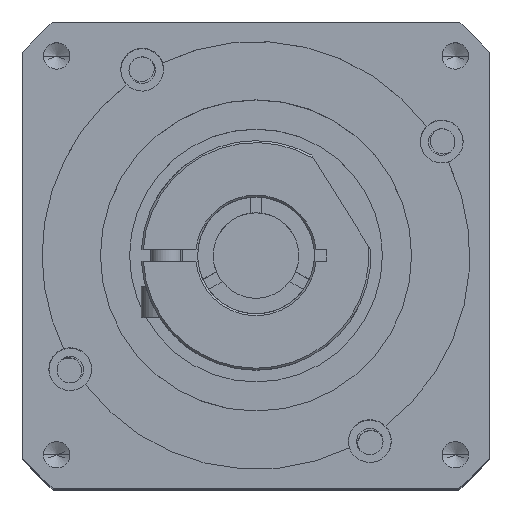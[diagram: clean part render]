
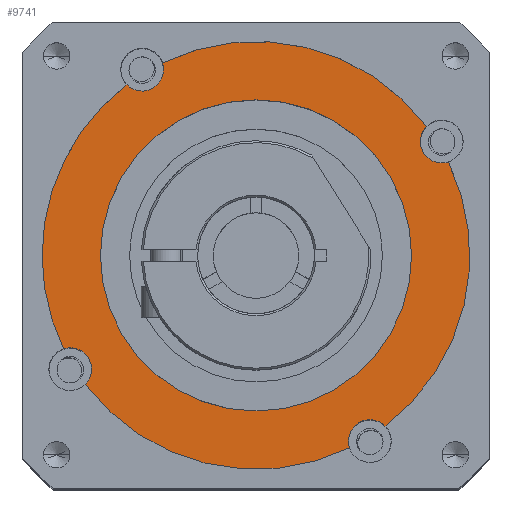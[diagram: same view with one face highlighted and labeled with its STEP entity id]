
A CAD part, top view. The second image highlights one B-rep face of the part: STEP entity #9741.
In plain terms, the highlighted planar face has unit normal (0, 0, 1) as drawn and (1, 0, 0) by its records, which use the part's own axes.
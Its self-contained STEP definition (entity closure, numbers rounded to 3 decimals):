
#34 = CARTESIAN_POINT ( 'NONE',  ( 69.5, 47.748, 23.76 ) ) ;
#111 = DIRECTION ( 'NONE',  ( 0., 0., 1. ) ) ;
#270 = EDGE_CURVE ( 'NONE', #5427, #4846, #9089, .T. ) ;
#343 = DIRECTION ( 'NONE',  ( 0., 0., 1. ) ) ;
#450 = EDGE_CURVE ( 'NONE', #2499, #3222, #2059, .T. ) ;
#566 = VERTEX_POINT ( 'NONE', #2407 ) ;
#611 = ORIENTED_EDGE ( 'NONE', *, *, #7048, .F. ) ;
#701 = CARTESIAN_POINT ( 'NONE',  ( 69.5, 0., 0. ) ) ;
#743 = ORIENTED_EDGE ( 'NONE', *, *, #4870, .F. ) ;
#765 = DIRECTION ( 'NONE',  ( 0., 0., 1. ) ) ;
#958 = CIRCLE ( 'NONE', #1059, 5.5 ) ;
#998 = DIRECTION ( 'NONE',  ( 1., 0., 0. ) ) ;
#1059 = AXIS2_PLACEMENT_3D ( 'NONE', #5576, #4497, #3432 ) ;
#1121 = EDGE_CURVE ( 'NONE', #3222, #2499, #9917, .T. ) ;
#1195 = DIRECTION ( 'NONE',  ( -1., 0., 0. ) ) ;
#1353 = EDGE_CURVE ( 'NONE', #566, #5427, #5352, .T. ) ;
#1397 = AXIS2_PLACEMENT_3D ( 'NONE', #7278, #6271, #5209 ) ;
#1424 = VERTEX_POINT ( 'NONE', #6584 ) ;
#1427 = DIRECTION ( 'NONE',  ( -1., 0., 0. ) ) ;
#1705 = CIRCLE ( 'NONE', #4804, 5.5 ) ;
#1756 = CIRCLE ( 'NONE', #4811, 5.5 ) ;
#1817 = CIRCLE ( 'NONE', #4097, 55. ) ;
#1861 = DIRECTION ( 'NONE',  ( -1., 0., 0. ) ) ;
#1931 = AXIS2_PLACEMENT_3D ( 'NONE', #7517, #6520, #5458 ) ;
#2004 = CARTESIAN_POINT ( 'NONE',  ( 69.5, -29.26, 42.248 ) ) ;
#2015 = CARTESIAN_POINT ( 'NONE',  ( 69.5, 0., -40. ) ) ;
#2018 = VERTEX_POINT ( 'NONE', #9753 ) ;
#2059 = CIRCLE ( 'NONE', #8156, 40. ) ;
#2233 = ORIENTED_EDGE ( 'NONE', *, *, #5143, .F. ) ;
#2281 = EDGE_CURVE ( 'NONE', #2018, #4957, #8479, .T. ) ;
#2378 = ORIENTED_EDGE ( 'NONE', *, *, #3861, .F. ) ;
#2390 = CARTESIAN_POINT ( 'NONE',  ( 69.5, 49.47, 24.036 ) ) ;
#2407 = CARTESIAN_POINT ( 'NONE',  ( 69.5, -33.166, 43.875 ) ) ;
#2441 = AXIS2_PLACEMENT_3D ( 'NONE', #7479, #6474, #5410 ) ;
#2453 = DIRECTION ( 'NONE',  ( 0., 0., -1. ) ) ;
#2489 = CARTESIAN_POINT ( 'NONE',  ( 69.5, 0., 0. ) ) ;
#2499 = VERTEX_POINT ( 'NONE', #3281 ) ;
#2555 = EDGE_CURVE ( 'NONE', #4846, #2018, #7748, .T. ) ;
#2590 = ORIENTED_EDGE ( 'NONE', *, *, #1121, .T. ) ;
#2608 = VERTEX_POINT ( 'NONE', #5875 ) ;
#2693 = ORIENTED_EDGE ( 'NONE', *, *, #1353, .F. ) ;
#2744 = AXIS2_PLACEMENT_3D ( 'NONE', #10188, #7192, #6183 ) ;
#2953 = VERTEX_POINT ( 'NONE', #6117 ) ;
#3002 = VERTEX_POINT ( 'NONE', #2390 ) ;
#3135 = CARTESIAN_POINT ( 'NONE',  ( 69.5, -47.748, -29.26 ) ) ;
#3145 = AXIS2_PLACEMENT_3D ( 'NONE', #7538, #6544, #5480 ) ;
#3157 = VERTEX_POINT ( 'NONE', #6777 ) ;
#3200 = CIRCLE ( 'NONE', #2441, 5.5 ) ;
#3222 = VERTEX_POINT ( 'NONE', #2015 ) ;
#3281 = CARTESIAN_POINT ( 'NONE',  ( 69.5, 0., 40. ) ) ;
#3432 = DIRECTION ( 'NONE',  ( 0., 0., -1. ) ) ;
#3453 = VERTEX_POINT ( 'NONE', #5911 ) ;
#3523 = DIRECTION ( 'NONE',  ( 1., 0., 0. ) ) ;
#3812 = CARTESIAN_POINT ( 'NONE',  ( 69.5, -47.748, -29.26 ) ) ;
#3823 = VERTEX_POINT ( 'NONE', #8641 ) ;
#3861 = EDGE_CURVE ( 'NONE', #2608, #3823, #7848, .T. ) ;
#3904 = EDGE_LOOP ( 'NONE', ( #9784, #2590 ) ) ;
#4097 = AXIS2_PLACEMENT_3D ( 'NONE', #2489, #1427, #343 ) ;
#4379 = EDGE_CURVE ( 'NONE', #4957, #8036, #5581, .T. ) ;
#4394 = CARTESIAN_POINT ( 'NONE',  ( 69.5, 0., 0. ) ) ;
#4497 = DIRECTION ( 'NONE',  ( 1., 0., 0. ) ) ;
#4578 = CARTESIAN_POINT ( 'NONE',  ( 69.5, -24.036, 49.47 ) ) ;
#4739 = AXIS2_PLACEMENT_3D ( 'NONE', #6134, #1861, #765 ) ;
#4804 = AXIS2_PLACEMENT_3D ( 'NONE', #3812, #6764, #5704 ) ;
#4811 = AXIS2_PLACEMENT_3D ( 'NONE', #8723, #3523, #2453 ) ;
#4846 = VERTEX_POINT ( 'NONE', #4578 ) ;
#4860 = DIRECTION ( 'NONE',  ( 0., 0., -1. ) ) ;
#4870 = EDGE_CURVE ( 'NONE', #3157, #2608, #3200, .T. ) ;
#4957 = VERTEX_POINT ( 'NONE', #9779 ) ;
#5143 = EDGE_CURVE ( 'NONE', #3823, #1424, #5626, .T. ) ;
#5209 = DIRECTION ( 'NONE',  ( 0., 0., -1. ) ) ;
#5267 = ORIENTED_EDGE ( 'NONE', *, *, #9613, .F. ) ;
#5305 = DIRECTION ( 'NONE',  ( 0., 0., 1. ) ) ;
#5352 = CIRCLE ( 'NONE', #1397, 5.5 ) ;
#5410 = DIRECTION ( 'NONE',  ( 0., 0., -1. ) ) ;
#5427 = VERTEX_POINT ( 'NONE', #2004 ) ;
#5458 = DIRECTION ( 'NONE',  ( 0., 0., 1. ) ) ;
#5480 = DIRECTION ( 'NONE',  ( 0., 0., 1. ) ) ;
#5576 = CARTESIAN_POINT ( 'NONE',  ( 69.5, 47.748, 29.26 ) ) ;
#5581 = CIRCLE ( 'NONE', #2744, 5.5 ) ;
#5626 = CIRCLE ( 'NONE', #5744, 5.5 ) ;
#5704 = DIRECTION ( 'NONE',  ( 0., 0., -1. ) ) ;
#5744 = AXIS2_PLACEMENT_3D ( 'NONE', #3135, #998, #10125 ) ;
#5875 = CARTESIAN_POINT ( 'NONE',  ( 69.5, 24.036, -49.47 ) ) ;
#5911 = CARTESIAN_POINT ( 'NONE',  ( 69.5, 33.166, -43.875 ) ) ;
#5948 = DIRECTION ( 'NONE',  ( 1., 0., 0. ) ) ;
#6054 = ORIENTED_EDGE ( 'NONE', *, *, #270, .F. ) ;
#6117 = CARTESIAN_POINT ( 'NONE',  ( 69.5, -49.47, -24.036 ) ) ;
#6134 = CARTESIAN_POINT ( 'NONE',  ( 69.5, 0., 0. ) ) ;
#6175 = AXIS2_PLACEMENT_3D ( 'NONE', #7375, #6368, #5305 ) ;
#6183 = DIRECTION ( 'NONE',  ( 0., 0., -1. ) ) ;
#6187 = FACE_OUTER_BOUND ( 'NONE', #9851, .T. ) ;
#6271 = DIRECTION ( 'NONE',  ( 1., 0., 0. ) ) ;
#6368 = DIRECTION ( 'NONE',  ( -1., 0., 0. ) ) ;
#6428 = EDGE_CURVE ( 'NONE', #1424, #2953, #1705, .T. ) ;
#6456 = EDGE_CURVE ( 'NONE', #2953, #566, #6524, .T. ) ;
#6474 = DIRECTION ( 'NONE',  ( 1., 0., 0. ) ) ;
#6520 = DIRECTION ( 'NONE',  ( -1., 0., 0. ) ) ;
#6524 = CIRCLE ( 'NONE', #1931, 55. ) ;
#6544 = DIRECTION ( 'NONE',  ( -1., 0., 0. ) ) ;
#6584 = CARTESIAN_POINT ( 'NONE',  ( 69.5, -47.748, -23.76 ) ) ;
#6750 = ORIENTED_EDGE ( 'NONE', *, *, #2281, .F. ) ;
#6764 = DIRECTION ( 'NONE',  ( 1., 0., 0. ) ) ;
#6777 = CARTESIAN_POINT ( 'NONE',  ( 69.5, 29.26, -42.248 ) ) ;
#6977 = DIRECTION ( 'NONE',  ( 0., 0., -1. ) ) ;
#7048 = EDGE_CURVE ( 'NONE', #3453, #3157, #1756, .T. ) ;
#7192 = DIRECTION ( 'NONE',  ( 1., 0., 0. ) ) ;
#7245 = ORIENTED_EDGE ( 'NONE', *, *, #6456, .F. ) ;
#7278 = CARTESIAN_POINT ( 'NONE',  ( 69.5, -29.26, 47.748 ) ) ;
#7375 = CARTESIAN_POINT ( 'NONE',  ( 69.5, 0., 0. ) ) ;
#7391 = ORIENTED_EDGE ( 'NONE', *, *, #7837, .F. ) ;
#7479 = CARTESIAN_POINT ( 'NONE',  ( 69.5, 29.26, -47.748 ) ) ;
#7517 = CARTESIAN_POINT ( 'NONE',  ( 69.5, 0., 0. ) ) ;
#7538 = CARTESIAN_POINT ( 'NONE',  ( 69.5, 0., 0. ) ) ;
#7748 = CIRCLE ( 'NONE', #6175, 55. ) ;
#7837 = EDGE_CURVE ( 'NONE', #3002, #3453, #1817, .T. ) ;
#7848 = CIRCLE ( 'NONE', #9622, 55. ) ;
#7965 = CARTESIAN_POINT ( 'NONE',  ( 69.5, -29.26, 47.748 ) ) ;
#7972 = DIRECTION ( 'NONE',  ( 1., 0., 0. ) ) ;
#8036 = VERTEX_POINT ( 'NONE', #34 ) ;
#8156 = AXIS2_PLACEMENT_3D ( 'NONE', #701, #9857, #8860 ) ;
#8223 = AXIS2_PLACEMENT_3D ( 'NONE', #9000, #7972, #6977 ) ;
#8244 = ORIENTED_EDGE ( 'NONE', *, *, #6428, .F. ) ;
#8388 = ORIENTED_EDGE ( 'NONE', *, *, #4379, .F. ) ;
#8479 = CIRCLE ( 'NONE', #4739, 55. ) ;
#8641 = CARTESIAN_POINT ( 'NONE',  ( 69.5, -43.875, -33.166 ) ) ;
#8723 = CARTESIAN_POINT ( 'NONE',  ( 69.5, 29.26, -47.748 ) ) ;
#8860 = DIRECTION ( 'NONE',  ( 0., 0., 1. ) ) ;
#8956 = AXIS2_PLACEMENT_3D ( 'NONE', #7965, #5948, #4860 ) ;
#8991 = FACE_BOUND ( 'NONE', #3904, .T. ) ;
#9000 = CARTESIAN_POINT ( 'NONE',  ( 69.5, 0., -55. ) ) ;
#9089 = CIRCLE ( 'NONE', #8956, 5.5 ) ;
#9440 = ORIENTED_EDGE ( 'NONE', *, *, #2555, .F. ) ;
#9613 = EDGE_CURVE ( 'NONE', #8036, #3002, #958, .T. ) ;
#9622 = AXIS2_PLACEMENT_3D ( 'NONE', #4394, #1195, #111 ) ;
#9741 = ADVANCED_FACE ( 'NONE', ( #6187, #8991 ), #9988, .T. ) ;
#9753 = CARTESIAN_POINT ( 'NONE',  ( 69.5, 0., 55. ) ) ;
#9779 = CARTESIAN_POINT ( 'NONE',  ( 69.5, 43.875, 33.166 ) ) ;
#9784 = ORIENTED_EDGE ( 'NONE', *, *, #450, .T. ) ;
#9851 = EDGE_LOOP ( 'NONE', ( #8388, #6750, #9440, #6054, #2693, #7245, #8244, #2233, #2378, #743, #611, #7391, #5267 ) ) ;
#9857 = DIRECTION ( 'NONE',  ( -1., 0., 0. ) ) ;
#9917 = CIRCLE ( 'NONE', #3145, 40. ) ;
#9988 = PLANE ( 'NONE',  #8223 ) ;
#10125 = DIRECTION ( 'NONE',  ( 0., 0., -1. ) ) ;
#10188 = CARTESIAN_POINT ( 'NONE',  ( 69.5, 47.748, 29.26 ) ) ;
